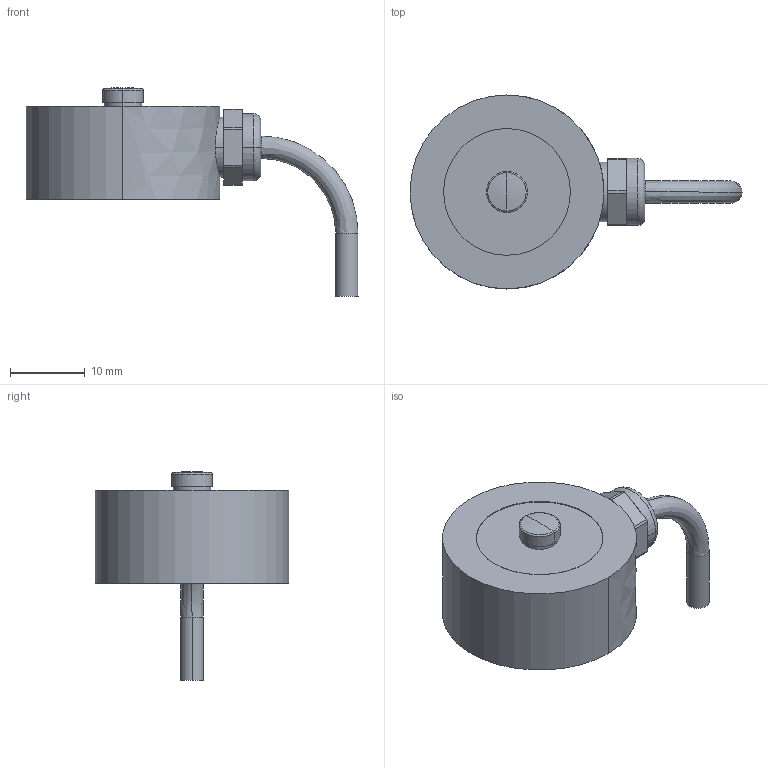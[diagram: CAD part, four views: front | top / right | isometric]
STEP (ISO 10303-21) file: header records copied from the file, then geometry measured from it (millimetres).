
FILE_DESCRIPTION((''),'2;1');
FILE_NAME('C9C_50N','2018-03-13T',('esche'),(''),'CREO PARAMETRIC BY PTC INC, 2017170','CREO PARAMETRIC BY PTC INC, 2017170','');
FILE_SCHEMA(('CONFIG_CONTROL_DESIGN'));
Length unit declared in the file: millimetre
Products named in the file (1): C9C_50N
Bounding box: 44.51 x 26 x 28 mm (x, y, z)
Volume: 6728.8 mm3; surface area: 3030.9 mm2
Topology: 1 solids, 1 shells, 88 faces, 209 edges, 130 vertices
Faces by surface type: bspline 88
Entity records: 3722 total; most frequent: CARTESIAN_POINT 1843, ORIENTED_EDGE 402, DIRECTION 302, EDGE_CURVE 201, VERTEX_POINT 130, AXIS2_PLACEMENT_3D 113, CIRCLE 113, EDGE_LOOP 103
